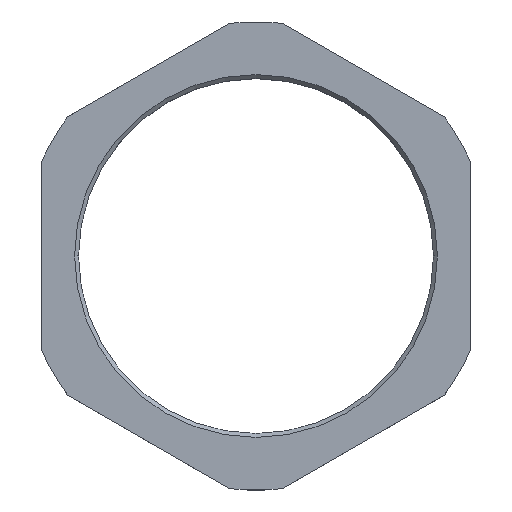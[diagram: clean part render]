
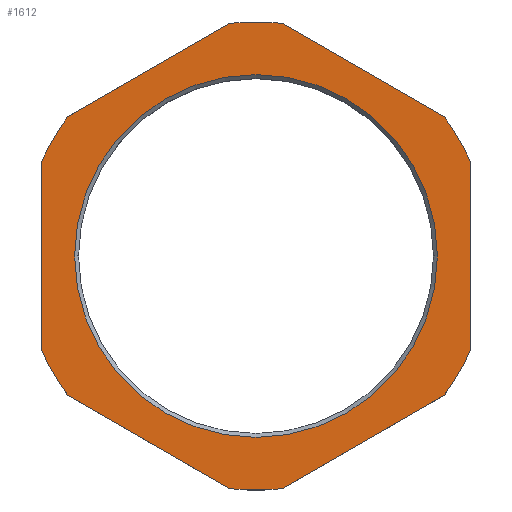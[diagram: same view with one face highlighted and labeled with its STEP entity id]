
A CAD part, top view. The second image highlights one B-rep face of the part: STEP entity #1612.
In plain terms, the highlighted planar face has unit normal (0, 0, 1).
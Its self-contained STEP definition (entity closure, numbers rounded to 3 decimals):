
#756 = CARTESIAN_POINT ( 'NONE',  ( 27.5, -15.877, 0. ) ) ;
#757 = LINE ( 'NONE', #756, #770 ) ;
#760 = DIRECTION ( 'NONE',  ( -1., 0., 0. ) ) ;
#761 = DIRECTION ( 'NONE',  ( 0., 0., -1. ) ) ;
#762 = CARTESIAN_POINT ( 'NONE',  ( 0., 0., 0. ) ) ;
#767 = DIRECTION ( 'NONE',  ( 1., 0., 0. ) ) ;
#768 = DIRECTION ( 'NONE',  ( 0., 0., 1. ) ) ;
#769 = DIRECTION ( 'NONE',  ( 0., 1., 0. ) ) ;
#770 = VECTOR ( 'NONE', #769, 1000. ) ;
#771 = VECTOR ( 'NONE', #775, 1000. ) ;
#772 = DIRECTION ( 'NONE',  ( -1., 0., 0. ) ) ;
#773 = CARTESIAN_POINT ( 'NONE',  ( 0., 0., 0. ) ) ;
#774 = DIRECTION ( 'NONE',  ( 0., 0., -1. ) ) ;
#775 = DIRECTION ( 'NONE',  ( -0.866, -0.5, 0. ) ) ;
#961 = CARTESIAN_POINT ( 'NONE',  ( 27.5, 11.99, 0. ) ) ;
#977 = CARTESIAN_POINT ( 'NONE',  ( 27.5, -11.99, 0. ) ) ;
#998 = CARTESIAN_POINT ( 'NONE',  ( -23.24, 0., 0. ) ) ;
#1000 = AXIS2_PLACEMENT_3D ( 'NONE', #762, #761, #760 ) ;
#1001 = CIRCLE ( 'NONE', #1000, 23.24 ) ;
#1015 = CARTESIAN_POINT ( 'NONE',  ( 23.24, 0., 0. ) ) ;
#1020 = LINE ( 'NONE', #1024, #1023 ) ;
#1021 = CARTESIAN_POINT ( 'NONE',  ( 24.133, -17.821, 0. ) ) ;
#1022 = DIRECTION ( 'NONE',  ( 0.866, 0.5, 0. ) ) ;
#1023 = VECTOR ( 'NONE', #1022, 1000. ) ;
#1024 = CARTESIAN_POINT ( 'NONE',  ( 0., -31.754, 0. ) ) ;
#1025 = CARTESIAN_POINT ( 'NONE',  ( 3.367, -29.81, 0. ) ) ;
#1027 = CARTESIAN_POINT ( 'NONE',  ( 0., 0., 0. ) ) ;
#1028 = AXIS2_PLACEMENT_3D ( 'NONE', #1027, #768, #767 ) ;
#1029 = CIRCLE ( 'NONE', #1028, 30. ) ;
#1030 = CARTESIAN_POINT ( 'NONE',  ( 0., 0., 0. ) ) ;
#1031 = CARTESIAN_POINT ( 'NONE',  ( 27.5, 15.877, 0. ) ) ;
#1032 = LINE ( 'NONE', #1031, #1043 ) ;
#1033 = CARTESIAN_POINT ( 'NONE',  ( 3.367, 29.81, 0. ) ) ;
#1034 = AXIS2_PLACEMENT_3D ( 'NONE', #1030, #1038, #1035 ) ;
#1035 = DIRECTION ( 'NONE',  ( 1., 0., 0. ) ) ;
#1036 = AXIS2_PLACEMENT_3D ( 'NONE', #773, #774, #772 ) ;
#1037 = CIRCLE ( 'NONE', #1036, 23.24 ) ;
#1038 = DIRECTION ( 'NONE',  ( 0., 0., 1. ) ) ;
#1040 = CARTESIAN_POINT ( 'NONE',  ( 24.133, 17.821, 0. ) ) ;
#1041 = CIRCLE ( 'NONE', #1034, 30. ) ;
#1042 = DIRECTION ( 'NONE',  ( -0.866, 0.5, 0. ) ) ;
#1043 = VECTOR ( 'NONE', #1042, 1000. ) ;
#1045 = DIRECTION ( 'NONE',  ( -1., 0., 0. ) ) ;
#1046 = DIRECTION ( 'NONE',  ( 0., 0., -1. ) ) ;
#1047 = CARTESIAN_POINT ( 'NONE',  ( 0., 0., 0. ) ) ;
#1048 = AXIS2_PLACEMENT_3D ( 'NONE', #1047, #1046, #1045 ) ;
#1059 = CARTESIAN_POINT ( 'NONE',  ( 0., 31.754, 0. ) ) ;
#1060 = LINE ( 'NONE', #1059, #771 ) ;
#1061 = CARTESIAN_POINT ( 'NONE',  ( -24.133, -17.821, 0. ) ) ;
#1063 = FACE_OUTER_BOUND ( 'NONE', #1617, .T. ) ;
#1064 = FACE_BOUND ( 'NONE', #1613, .T. ) ;
#1067 = DIRECTION ( 'NONE',  ( 1., 0., 0. ) ) ;
#1068 = DIRECTION ( 'NONE',  ( 0., 0., 1. ) ) ;
#1069 = CARTESIAN_POINT ( 'NONE',  ( 0., 0., 0. ) ) ;
#1070 = AXIS2_PLACEMENT_3D ( 'NONE', #1069, #1068, #1067 ) ;
#1071 = CIRCLE ( 'NONE', #1070, 30. ) ;
#1072 = PLANE ( 'NONE',  #1048 ) ;
#1563 = VERTEX_POINT ( 'NONE', #961 ) ;
#1565 = EDGE_CURVE ( 'NONE', #1566, #1563, #757, .T. ) ;
#1566 = VERTEX_POINT ( 'NONE', #977 ) ;
#1578 = VERTEX_POINT ( 'NONE', #998 ) ;
#1580 = EDGE_CURVE ( 'NONE', #1581, #1578, #1001, .T. ) ;
#1581 = VERTEX_POINT ( 'NONE', #1015 ) ;
#1590 = VERTEX_POINT ( 'NONE', #1025 ) ;
#1591 = ORIENTED_EDGE ( 'NONE', *, *, #1592, .T. ) ;
#1592 = EDGE_CURVE ( 'NONE', #1590, #1593, #1020, .T. ) ;
#1593 = VERTEX_POINT ( 'NONE', #1021 ) ;
#1594 = ORIENTED_EDGE ( 'NONE', *, *, #1595, .T. ) ;
#1595 = EDGE_CURVE ( 'NONE', #1593, #1566, #1029, .T. ) ;
#1596 = ORIENTED_EDGE ( 'NONE', *, *, #1565, .T. ) ;
#1597 = ORIENTED_EDGE ( 'NONE', *, *, #1598, .T. ) ;
#1598 = EDGE_CURVE ( 'NONE', #1563, #1599, #1041, .T. ) ;
#1599 = VERTEX_POINT ( 'NONE', #1040 ) ;
#1600 = ORIENTED_EDGE ( 'NONE', *, *, #1601, .T. ) ;
#1601 = EDGE_CURVE ( 'NONE', #1599, #1602, #1032, .T. ) ;
#1602 = VERTEX_POINT ( 'NONE', #1033 ) ;
#1604 = ORIENTED_EDGE ( 'NONE', *, *, #1605, .T. ) ;
#1605 = EDGE_CURVE ( 'NONE', #1578, #1581, #1037, .T. ) ;
#1612 = ADVANCED_FACE ( 'NONE', ( #1064, #1063 ), #1072, .F. ) ;
#1613 = EDGE_LOOP ( 'NONE', ( #1614, #1604 ) ) ;
#1614 = ORIENTED_EDGE ( 'NONE', *, *, #1580, .T. ) ;
#1615 = EDGE_CURVE ( 'NONE', #1627, #1616, #1071, .T. ) ;
#1616 = VERTEX_POINT ( 'NONE', #1061 ) ;
#1617 = EDGE_LOOP ( 'NONE', ( #1618, #1622, #1625, #1628, #1640, #1643, #1591, #1594, #1596, #1597, #1600, #1629 ) ) ;
#1618 = ORIENTED_EDGE ( 'NONE', *, *, #1619, .T. ) ;
#1619 = EDGE_CURVE ( 'NONE', #1620, #1621, #1060, .T. ) ;
#1620 = VERTEX_POINT ( 'NONE', #1921 ) ;
#1621 = VERTEX_POINT ( 'NONE', #1915 ) ;
#1622 = ORIENTED_EDGE ( 'NONE', *, *, #1623, .T. ) ;
#1623 = EDGE_CURVE ( 'NONE', #1621, #1624, #1927, .T. ) ;
#1624 = VERTEX_POINT ( 'NONE', #1898 ) ;
#1625 = ORIENTED_EDGE ( 'NONE', *, *, #1626, .T. ) ;
#1626 = EDGE_CURVE ( 'NONE', #1624, #1627, #1912, .T. ) ;
#1627 = VERTEX_POINT ( 'NONE', #1916 ) ;
#1628 = ORIENTED_EDGE ( 'NONE', *, *, #1615, .T. ) ;
#1629 = ORIENTED_EDGE ( 'NONE', *, *, #1630, .T. ) ;
#1630 = EDGE_CURVE ( 'NONE', #1602, #1620, #1920, .T. ) ;
#1640 = ORIENTED_EDGE ( 'NONE', *, *, #1641, .T. ) ;
#1641 = EDGE_CURVE ( 'NONE', #1616, #1642, #1674, .T. ) ;
#1642 = VERTEX_POINT ( 'NONE', #1684 ) ;
#1643 = ORIENTED_EDGE ( 'NONE', *, *, #1644, .T. ) ;
#1644 = EDGE_CURVE ( 'NONE', #1642, #1590, #1673, .T. ) ;
#1670 = AXIS2_PLACEMENT_3D ( 'NONE', #1672, #1675, #1671 ) ;
#1671 = DIRECTION ( 'NONE',  ( 1., 0., 0. ) ) ;
#1672 = CARTESIAN_POINT ( 'NONE',  ( 0., 0., 0. ) ) ;
#1673 = CIRCLE ( 'NONE', #1670, 30. ) ;
#1674 = LINE ( 'NONE', #1679, #1676 ) ;
#1675 = DIRECTION ( 'NONE',  ( 0., 0., 1. ) ) ;
#1676 = VECTOR ( 'NONE', #1677, 1000. ) ;
#1677 = DIRECTION ( 'NONE',  ( 0.866, -0.5, 0. ) ) ;
#1679 = CARTESIAN_POINT ( 'NONE',  ( -27.5, -15.877, 0. ) ) ;
#1684 = CARTESIAN_POINT ( 'NONE',  ( -3.367, -29.81, 0. ) ) ;
#1896 = DIRECTION ( 'NONE',  ( 1., 0., 0. ) ) ;
#1897 = CARTESIAN_POINT ( 'NONE',  ( 0., 0., 0. ) ) ;
#1898 = CARTESIAN_POINT ( 'NONE',  ( -27.5, 11.99, 0. ) ) ;
#1899 = DIRECTION ( 'NONE',  ( 0., 0., 1. ) ) ;
#1902 = AXIS2_PLACEMENT_3D ( 'NONE', #1897, #1899, #1896 ) ;
#1904 = DIRECTION ( 'NONE',  ( 1., 0., 0. ) ) ;
#1905 = DIRECTION ( 'NONE',  ( 0., 0., 1. ) ) ;
#1906 = CARTESIAN_POINT ( 'NONE',  ( 0., 0., 0. ) ) ;
#1907 = AXIS2_PLACEMENT_3D ( 'NONE', #1906, #1905, #1904 ) ;
#1909 = DIRECTION ( 'NONE',  ( 0., -1., 0. ) ) ;
#1910 = VECTOR ( 'NONE', #1909, 1000. ) ;
#1911 = CARTESIAN_POINT ( 'NONE',  ( -27.5, 15.877, 0. ) ) ;
#1912 = LINE ( 'NONE', #1911, #1910 ) ;
#1915 = CARTESIAN_POINT ( 'NONE',  ( -24.133, 17.821, 0. ) ) ;
#1916 = CARTESIAN_POINT ( 'NONE',  ( -27.5, -11.99, 0. ) ) ;
#1920 = CIRCLE ( 'NONE', #1907, 30. ) ;
#1921 = CARTESIAN_POINT ( 'NONE',  ( -3.367, 29.81, 0. ) ) ;
#1927 = CIRCLE ( 'NONE', #1902, 30. ) ;
